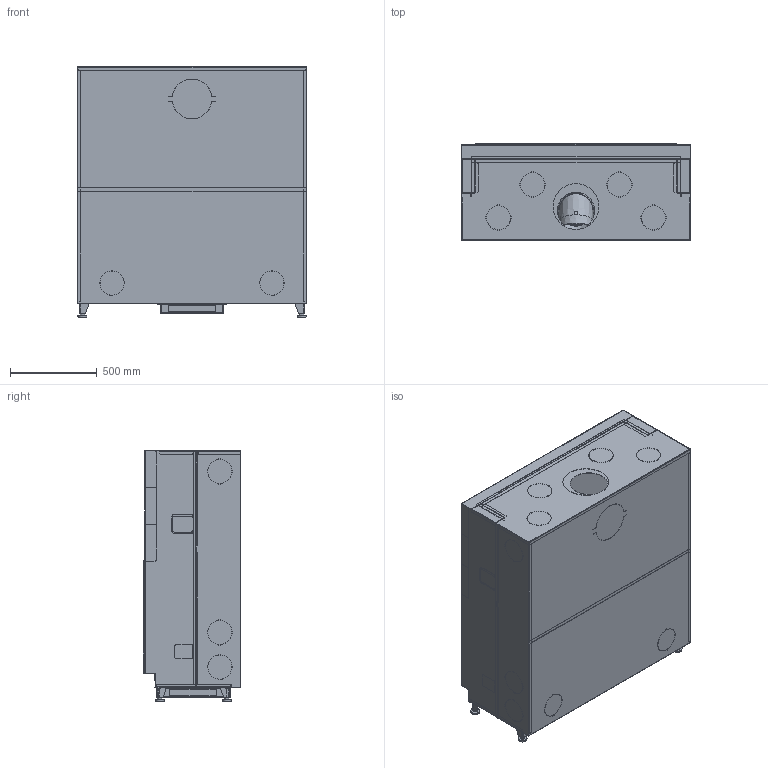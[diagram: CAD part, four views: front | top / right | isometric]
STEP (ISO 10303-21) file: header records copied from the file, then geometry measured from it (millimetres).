
FILE_DESCRIPTION(/* description */ (''),/* implementation_level */ '2;1');
FILE_NAME(/* name */ 'C:\ADSK_DM_WS\CAD_3D\03 Geraete\Violino 65x116\Zeichnungen\Violino 65x116 Abgang hinten mit Mantel.stp',/* time_stamp */ '2022-11-18T10:16:57+01:00',/* author */ ('CPI'),/* organization */ (''),/* preprocessor_version */ 'ST-DEVELOPER v18.1',/* originating_system */ 'Autodesk Inventor 2022',/* authorisation */ '');
FILE_SCHEMA (('AUTOMOTIVE_DESIGN { 1 0 10303 214 3 1 1 }'));
Products named in the file (8): 2022-04372; 2022-04349; 2022-04359; 2022-04357; 2022-04355; 2022-04353; 2022-04351; 2022-04369
Assembly tree (7 placements, depth 2):
  2022-04372
    2022-04349
    2022-04359
    2022-04357
    2022-04355
    2022-04353
    2022-04351
    2022-04369
Bounding box: 1326 x 564.5 x 1448 mm (x, y, z)
Volume: 97844625.4 mm3; surface area: 30112786.8 mm2
Topology: 16 solids, 19 shells, 7033 faces, 19459 edges, 12323 vertices
Faces by surface type: plane 4047, cylinder 2592, bspline 212, cone 142, torus 40
Full cylindrical faces by diameter (mm): 4.5 x4, 4.8 x12, 5.6 x1, 7 x2, 7.323 x2, 8 x12, 9.5 x12, 10 x7, 11.4 x6, 16 x18, 30 x4, 163 x1, 333 x1, 339 x1
Entity records: 238126 total; most frequent: CARTESIAN_POINT 48714, ORIENTED_EDGE 38946, DIRECTION 37687, EDGE_CURVE 19481, LINE 13169, VECTOR 13169, VERTEX_POINT 12323, AXIS2_PLACEMENT_3D 12259
